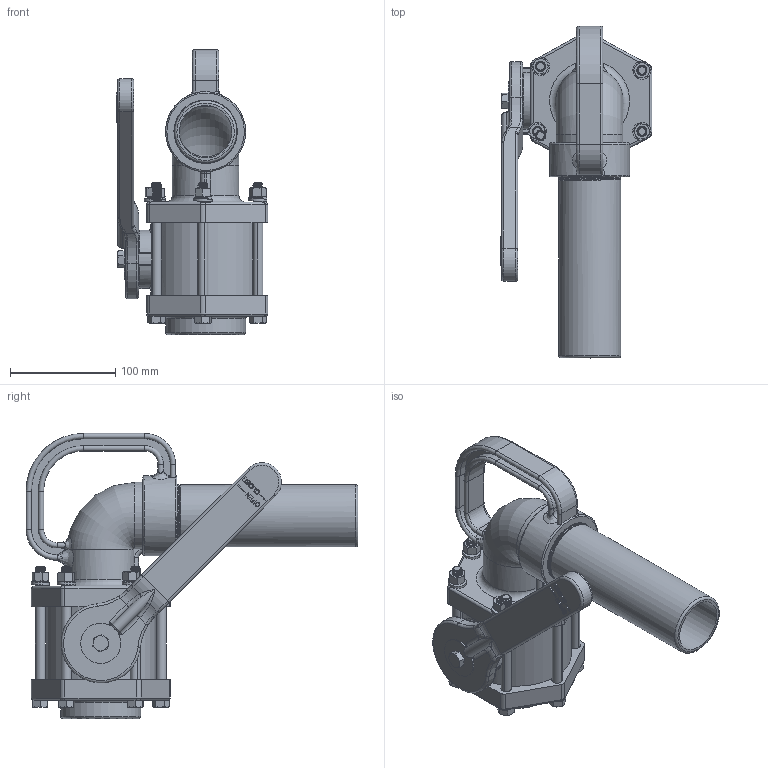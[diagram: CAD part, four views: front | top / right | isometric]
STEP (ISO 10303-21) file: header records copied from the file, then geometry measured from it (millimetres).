
FILE_DESCRIPTION(/* description */ ('Alibre Inc.'),/* implementation_level */ '2;1');
FILE_NAME(/* name */ 'export0',/* time_stamp */ '2017-07-16T13:41:10-04:00',/* author */ (''),/* organization */ (''),/* preprocessor_version */ 'ST-DEVELOPER v14',/* originating_system */ 'Alibre',/* authorisation */ '');
FILE_SCHEMA (('CONFIG_CONTROL_DESIGN'));
Length unit declared in the file: centimetre
Products named in the file (16): ID_1; ID_2; ID_3; ID_4; ID_5; ID_6; ID_7; ID_8; ID_9; ID_10; ID_11; ID_12
Bounding box: 144.27 x 315.74 x 271.27 mm (x, y, z)
Volume: 1409094.3 mm3; surface area: 429386.1 mm2
Topology: 32 solids, 32 shells, 1570 faces, 4029 edges, 2595 vertices
Faces by surface type: cylinder 576, plane 455, cone 272, bspline 183, torus 79, sphere 5
Full cylindrical faces by diameter (mm): 7.798 x1, 9.906 x12, 10.414 x1, 25.146 x2, 25.273 x1, 25.4 x2, 31.496 x3, 35.814 x1, 36.576 x4, 38.1 x1, 50.038 x1, 50.8 x2, 52.07 x5, 52.324 x1, 55.626 x1, 59.182 x7, 76.2 x2, 83.312 x2, 84.836 x1, 91.44 x2, 91.948 x2, 94.488 x2
Entity records: 134342 total; most frequent: CARTESIAN_POINT 113874, ORIENTED_EDGE 4320, DIRECTION 2913, EDGE_CURVE 2160, VERTEX_POINT 1430, AXIS2_PLACEMENT_3D 1221, FACE_BOUND 1014, EDGE_LOOP 1013
